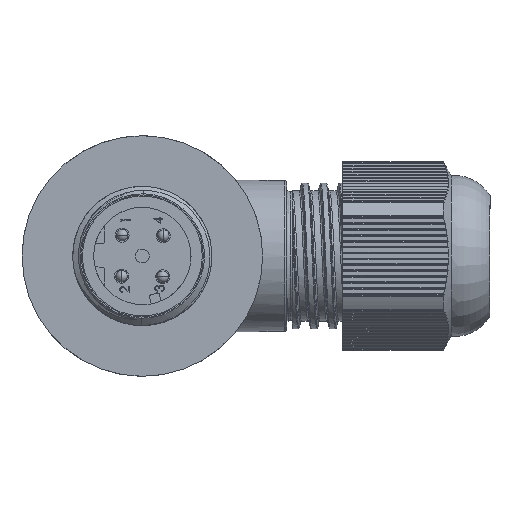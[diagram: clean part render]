
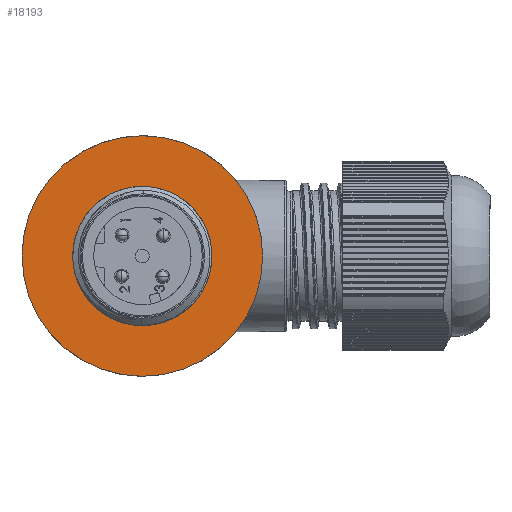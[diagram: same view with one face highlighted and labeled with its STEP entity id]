
A CAD part, left-side view. The second image highlights one B-rep face of the part: STEP entity #18193.
In plain terms, the highlighted planar face has unit normal (-1, 0, 0).
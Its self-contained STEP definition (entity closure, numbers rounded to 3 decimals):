
#601 = CARTESIAN_POINT ( 'NONE',  ( 9.916, -0.083, 5.782 ) ) ;
#719 = AXIS2_PLACEMENT_3D ( 'NONE', #1918, #2133, #22620 ) ;
#1647 = VERTEX_POINT ( 'NONE', #15735 ) ;
#1918 = CARTESIAN_POINT ( 'NONE',  ( 9.916, 0., 0. ) ) ;
#2133 = DIRECTION ( 'NONE',  ( 1., 0., 0. ) ) ;
#2616 = ORIENTED_EDGE ( 'NONE', *, *, #32608, .T. ) ;
#3818 = CARTESIAN_POINT ( 'NONE',  ( 9.916, 0., 0. ) ) ;
#3838 = CIRCLE ( 'NONE', #18091, 10.351 ) ;
#5398 = DIRECTION ( 'NONE',  ( -1., 0., 0. ) ) ;
#7774 = EDGE_CURVE ( 'NONE', #32850, #24868, #17038, .T. ) ;
#8447 = AXIS2_PLACEMENT_3D ( 'NONE', #16648, #24834, #32435 ) ;
#9725 = DIRECTION ( 'NONE',  ( 0., 0., 1. ) ) ;
#12206 = VERTEX_POINT ( 'NONE', #23567 ) ;
#13218 = ORIENTED_EDGE ( 'NONE', *, *, #20647, .T. ) ;
#14470 = DIRECTION ( 'NONE',  ( 0., 0.014, -1. ) ) ;
#15465 = FACE_BOUND ( 'NONE', #17886, .T. ) ;
#15735 = CARTESIAN_POINT ( 'NONE',  ( 9.916, 0., -10.351 ) ) ;
#16269 = CARTESIAN_POINT ( 'NONE',  ( 9.916, 0.083, -5.782 ) ) ;
#16648 = CARTESIAN_POINT ( 'NONE',  ( 9.916, 5.782, 0.083 ) ) ;
#17038 = CIRCLE ( 'NONE', #719, 5.783 ) ;
#17836 = CARTESIAN_POINT ( 'NONE',  ( 9.916, 0., 0. ) ) ;
#17886 = EDGE_LOOP ( 'NONE', ( #30278, #30243 ) ) ;
#18091 = AXIS2_PLACEMENT_3D ( 'NONE', #31764, #5398, #26565 ) ;
#18193 = ADVANCED_FACE ( 'NONE', ( #15465, #28219 ), #32321, .T. ) ;
#20647 = EDGE_CURVE ( 'NONE', #1647, #12206, #3838, .T. ) ;
#22001 = DIRECTION ( 'NONE',  ( 1., 0., 0. ) ) ;
#22334 = DIRECTION ( 'NONE',  ( -1., 0., 0. ) ) ;
#22620 = DIRECTION ( 'NONE',  ( 0., 0.014, -1. ) ) ;
#23021 = AXIS2_PLACEMENT_3D ( 'NONE', #3818, #22001, #14470 ) ;
#23307 = EDGE_CURVE ( 'NONE', #24868, #32850, #31185, .T. ) ;
#23567 = CARTESIAN_POINT ( 'NONE',  ( 9.916, 0., 10.351 ) ) ;
#24834 = DIRECTION ( 'NONE',  ( -1., 0., 0. ) ) ;
#24868 = VERTEX_POINT ( 'NONE', #601 ) ;
#26565 = DIRECTION ( 'NONE',  ( 0., 0., 1. ) ) ;
#27180 = EDGE_LOOP ( 'NONE', ( #2616, #13218 ) ) ;
#28219 = FACE_OUTER_BOUND ( 'NONE', #27180, .T. ) ;
#30243 = ORIENTED_EDGE ( 'NONE', *, *, #23307, .T. ) ;
#30278 = ORIENTED_EDGE ( 'NONE', *, *, #7774, .T. ) ;
#31185 = CIRCLE ( 'NONE', #23021, 5.783 ) ;
#31569 = AXIS2_PLACEMENT_3D ( 'NONE', #17836, #22334, #9725 ) ;
#31764 = CARTESIAN_POINT ( 'NONE',  ( 9.916, 0., 0. ) ) ;
#32321 = PLANE ( 'NONE',  #8447 ) ;
#32435 = DIRECTION ( 'NONE',  ( 0., -0.014, 1. ) ) ;
#32608 = EDGE_CURVE ( 'NONE', #12206, #1647, #33287, .T. ) ;
#32850 = VERTEX_POINT ( 'NONE', #16269 ) ;
#33287 = CIRCLE ( 'NONE', #31569, 10.351 ) ;
